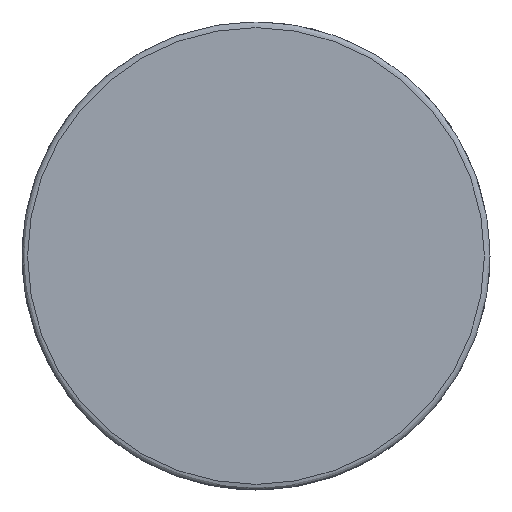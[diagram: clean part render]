
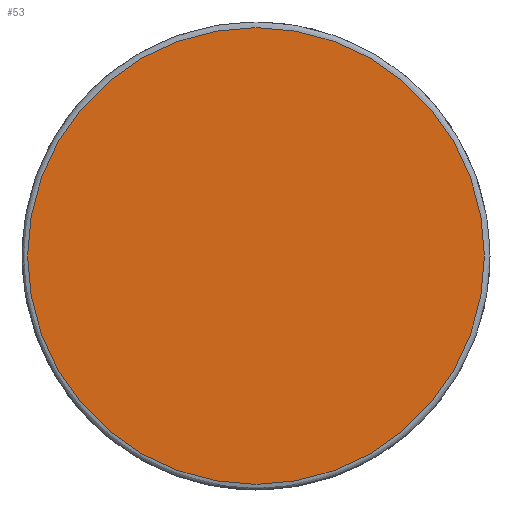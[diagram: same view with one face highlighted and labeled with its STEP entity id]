
A CAD part, left-side view. The second image highlights one B-rep face of the part: STEP entity #53.
In plain terms, the highlighted planar face has unit normal (-1, 0, 0).
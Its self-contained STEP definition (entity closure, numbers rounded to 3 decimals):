
#28=CARTESIAN_POINT('',(-691.681,-513.326,-69.426));
#29=DIRECTION('',(-1.0,0.0,0.0));
#30=DIRECTION('',(0.0,-1.0,0.0));
#31=AXIS2_PLACEMENT_3D('',#28,#29,#30);
#32=PLANE('',#31);
#33=CARTESIAN_POINT('',(-691.681,-603.626,-19.626));
#34=VERTEX_POINT('',#33);
#35=CARTESIAN_POINT('',(-691.681,-522.626,-19.626));
#36=VERTEX_POINT('',#35);
#37=CARTESIAN_POINT('',(-691.681,-563.126,-19.626));
#38=DIRECTION('',(-1.0,0.0,0.0));
#39=DIRECTION('',(0.0,-1.0,0.0));
#40=AXIS2_PLACEMENT_3D('',#37,#38,#39);
#41=CIRCLE('',#40,40.5);
#42=EDGE_CURVE('',#34,#36,#41,.T.);
#43=ORIENTED_EDGE('',*,*,#42,.T.);
#44=CARTESIAN_POINT('',(-691.681,-563.126,-19.626));
#45=DIRECTION('',(-1.0,0.0,0.0));
#46=DIRECTION('',(0.0,-1.0,0.0));
#47=AXIS2_PLACEMENT_3D('',#44,#45,#46);
#48=CIRCLE('',#47,40.5);
#49=EDGE_CURVE('',#36,#34,#48,.T.);
#50=ORIENTED_EDGE('',*,*,#49,.T.);
#51=EDGE_LOOP('',(#43,#50));
#52=FACE_OUTER_BOUND('',#51,.T.);
#53=ADVANCED_FACE('',(#52),#32,.T.);
